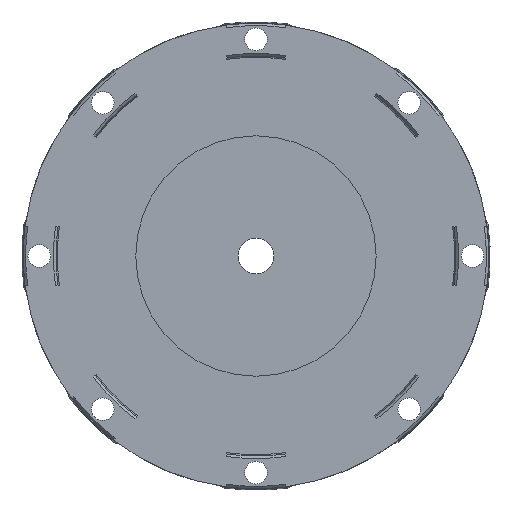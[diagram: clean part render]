
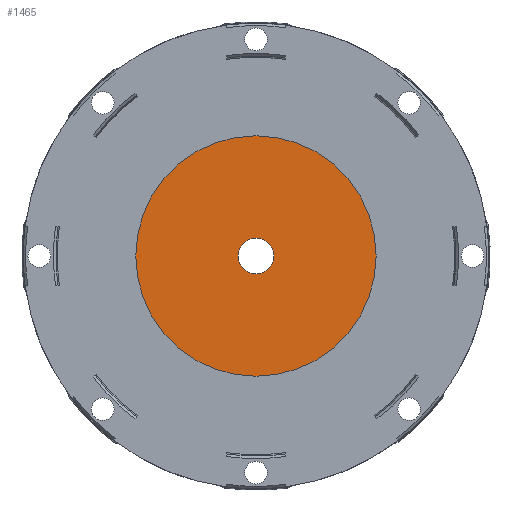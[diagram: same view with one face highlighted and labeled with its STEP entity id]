
A CAD part, left-side view. The second image highlights one B-rep face of the part: STEP entity #1465.
In plain terms, the highlighted planar face has unit normal (-1, 0, 0).
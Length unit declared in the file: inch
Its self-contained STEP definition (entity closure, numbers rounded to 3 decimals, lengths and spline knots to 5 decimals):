
#1465 = ADVANCED_FACE( '', ( #3570, #3571 ), #3572, .T. );
#3570 = FACE_OUTER_BOUND( '', #6415, .T. );
#3571 = FACE_BOUND( '', #6416, .T. );
#3572 = PLANE( '', #6417 );
#6415 = EDGE_LOOP( '', ( #11070 ) );
#6416 = EDGE_LOOP( '', ( #11071 ) );
#6417 = AXIS2_PLACEMENT_3D( '', #11072, #11073, #11074 );
#11070 = ORIENTED_EDGE( '', *, *, #18317, .T. );
#11071 = ORIENTED_EDGE( '', *, *, #18284, .F. );
#11072 = CARTESIAN_POINT( '', ( 0.283, 0.25, 0. ) );
#11073 = DIRECTION( '', ( -1., 0., 0. ) );
#11074 = DIRECTION( '', ( 0., 0., 1. ) );
#18284 = EDGE_CURVE( '', #22633, #22633, #22634, .T. );
#18317 = EDGE_CURVE( '', #22681, #22681, #22682, .T. );
#22633 = VERTEX_POINT( '', #29459 );
#22634 = CIRCLE( '', #29460, 0.25 );
#22681 = VERTEX_POINT( '', #29544 );
#22682 = CIRCLE( '', #29545, 1.6865 );
#29459 = CARTESIAN_POINT( '', ( 0.283, 0., 0.25 ) );
#29460 = AXIS2_PLACEMENT_3D( '', #34909, #34910, #34911 );
#29544 = CARTESIAN_POINT( '', ( 0.283, 0., 1.6865 ) );
#29545 = AXIS2_PLACEMENT_3D( '', #34948, #34949, #34950 );
#34909 = CARTESIAN_POINT( '', ( 0.283, 0., 0. ) );
#34910 = DIRECTION( '', ( -1., 0., 0. ) );
#34911 = DIRECTION( '', ( 0., 0., 1. ) );
#34948 = CARTESIAN_POINT( '', ( 0.283, 0., 0. ) );
#34949 = DIRECTION( '', ( -1., 0., 0. ) );
#34950 = DIRECTION( '', ( 0., 0., 1. ) );
